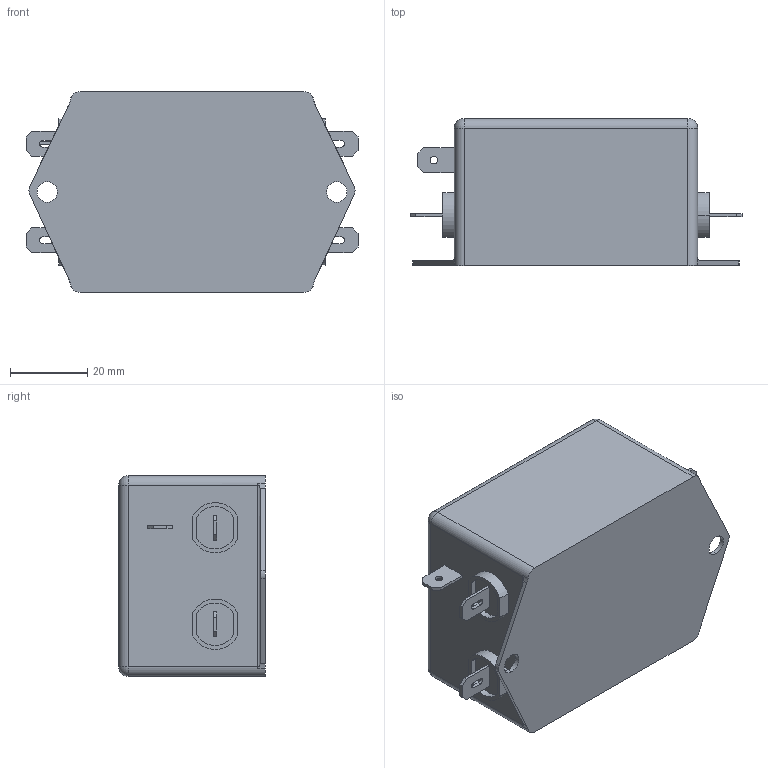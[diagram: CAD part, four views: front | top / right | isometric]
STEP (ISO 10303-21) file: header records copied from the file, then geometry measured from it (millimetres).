
FILE_DESCRIPTION (( 'STEP AP214' ), '1' );
FILE_NAME ('NF-16-1ph-GSC.STEP', '2025-08-20T08:43:13', ( '' ), ( '' ), 'SwSTEP 2.0', 'SolidWorks 2025', '' );
FILE_SCHEMA (( 'AUTOMOTIVE_DESIGN' ));
Length unit declared in the file: millimetre
Products named in the file (1): NF-16-1ph-GSC
Bounding box: 86 x 38 x 52 mm (x, y, z)
Volume: 125772.8 mm3; surface area: 17201.7 mm2
Topology: 1 solids, 1 shells, 141 faces, 366 edges, 236 vertices
Faces by surface type: plane 79, cylinder 54, torus 4, sphere 4
Entity records: 4391 total; most frequent: CARTESIAN_POINT 832, DIRECTION 742, ORIENTED_EDGE 724, EDGE_CURVE 362, AXIS2_PLACEMENT_3D 250, LINE 242, VECTOR 242, VERTEX_POINT 236
